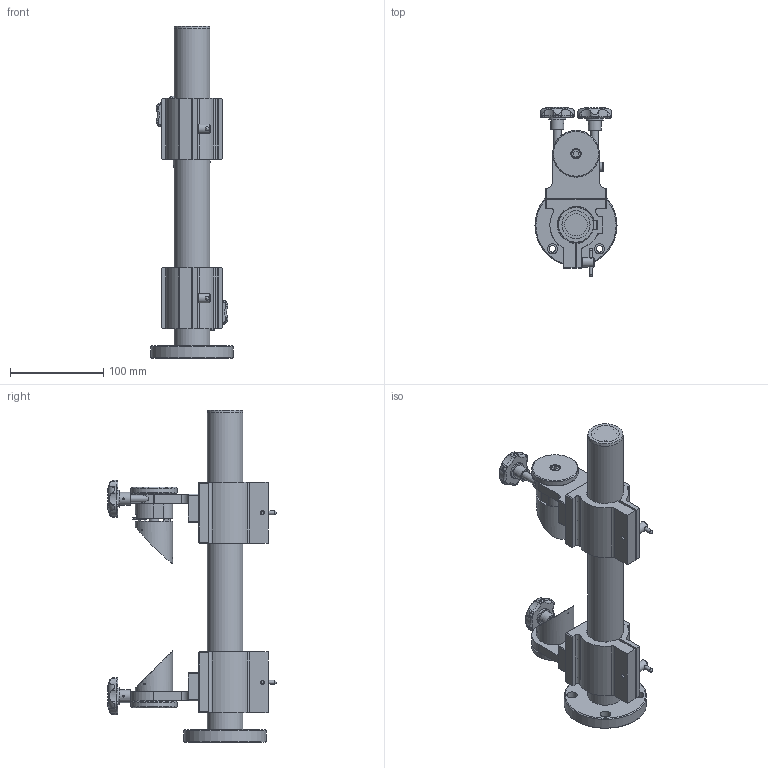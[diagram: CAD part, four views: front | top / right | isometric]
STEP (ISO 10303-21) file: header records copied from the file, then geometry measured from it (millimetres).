
FILE_DESCRIPTION(/* description */ (''),/* implementation_level */ '2;1');
FILE_NAME(/* name */ 'Y:\2_OpticalHard\02_Holders\BSRU\BSRU-355\BSRU-355.stp',/* time_stamp */ '2015-11-18T10:13:38+09:00',/* author */ ('s.hamada'),/* organization */ (''),/* preprocessor_version */ 'ST-DEVELOPER v15.6',/* originating_system */ 'Autodesk Inventor 2015',/* authorisation */ '');
FILE_SCHEMA (('AUTOMOTIVE_DESIGN { 1 0 10303 214 3 1 1 }'));
Length unit declared in the file: millimetre
Products named in the file (4): POS-14INEE-C1-S01; BSRU-355-C1-S02; BSRU-355-C1-S01; BSRU-355-C1-S03
Assembly tree (3 placements, depth 2):
  BSRU-355-C1-S03
    POS-14INEE-C1-S01
    BSRU-355-C1-S02
    BSRU-355-C1-S01
Bounding box: 88 x 180.86 x 355.6 mm (x, y, z)
Volume: 895102.2 mm3; surface area: 202592.2 mm2
Topology: 4 solids, 52 shells, 1117 faces, 2713 edges, 1749 vertices
Faces by surface type: plane 531, cylinder 399, cone 108, bspline 34, torus 29, sphere 16
Full cylindrical faces by diameter (mm): 1.5 x1, 1.567 x9, 1.6 x6, 2 x10, 2.1 x3, 2.459 x1, 3 x10, 3.242 x4, 3.5 x1, 4 x13, 4.134 x4, 4.4 x1, 4.459 x1, 4.5 x4, 4.917 x20, 5 x11, 5.1 x2, 5.2 x1, 5.459 x2, 5.5 x8, 6 x12, 7 x16, 8 x11, 10 x13, 11 x10, 14 x3, 18 x2, 20 x6, 20.5 x4, 21.5 x2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
Entity records: 33007 total; most frequent: CARTESIAN_POINT 7347, DIRECTION 5265, ORIENTED_EDGE 4488, EDGE_CURVE 2237, AXIS2_PLACEMENT_3D 2100, EDGE_LOOP 1629, VERTEX_POINT 1600, FACE_OUTER_BOUND 1116
